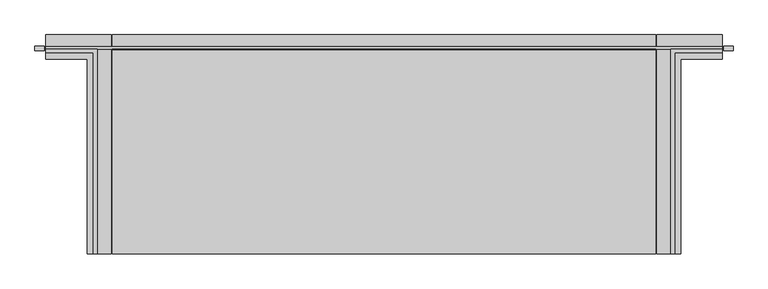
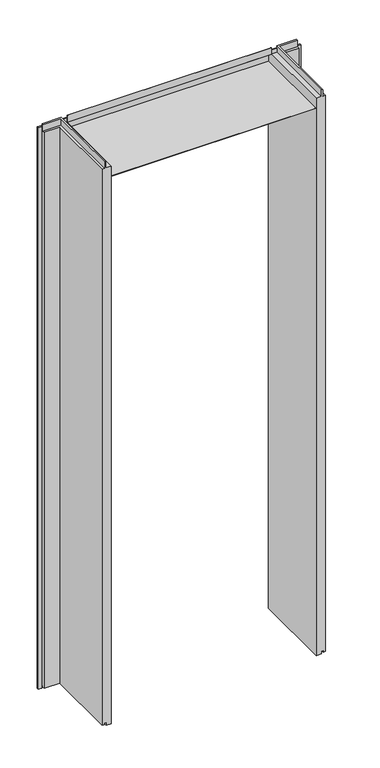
"""IFC4 building model written with IfcOpenShell, lengths in millimetres: plate geometry, Trimo_Qbiss Screen_Wall Opening Trims-HORIZONTAL : HR - B."""

import ifcopenshell
import ifcopenshell.guid

model = None  # the IFC model being written
_history = None  # IfcOwnerHistory: only IFC2X3 demands one
_inside = {}  # id of a spatial element -> (the spatial element, [elements in it])
_under = {}  # id of a project, library or spatial element -> (it, [spatial elements below it])
_declared = {}  # id of a project -> (the project, [libraries it declares])
_typed = {}  # id of a type object -> (the type object, [elements of that type])
_made_of = {}  # id of a material, layer set ... -> (it, [elements and type objects made of it])


def new_model(schema):
    """Start an empty IFC model of exactly this schema.

    Asked for "IFC4X3", IfcOpenShell would pick the latest addendum, in which some entities
    have other attributes; the version numbers below select the first issue.
    IFC2X3 requires an IfcOwnerHistory on every rooted entity: one is made here for all.
    """
    global model, _history
    if schema == "IFC4X3":
        model = ifcopenshell.file(schema_version=(4, 3, 0, 0))
    else:
        model = ifcopenshell.file(schema=schema)
    _inside.clear()
    _under.clear()
    _declared.clear()
    _typed.clear()
    _made_of.clear()
    _history = None
    if model.schema == "IFC2X3":
        org = make("IfcOrganization", Name="unknown")
        user = make(
            "IfcPersonAndOrganization",
            ThePerson=make("IfcPerson", FamilyName="unknown"),
            TheOrganization=org,
        )
        app = make(
            "IfcApplication",
            ApplicationDeveloper=org,
            Version="unknown",
            ApplicationFullName="unknown",
            ApplicationIdentifier="unknown",
        )
        _history = make(
            "IfcOwnerHistory",
            OwningUser=user,
            OwningApplication=app,
            ChangeAction="ADDED",
            CreationDate=0,
        )
    return model


def make(cls, **values):
    """One entity of the class cls with the attributes given. An attribute that is None is left unset."""
    return model.create_entity(
        cls, **{name: value for name, value in values.items() if value is not None}
    )


def rooted(cls, **values):
    """An entity with a GlobalId (a new one), such as an element, a storey or a relation."""
    return make(cls, GlobalId=ifcopenshell.guid.new(), OwnerHistory=_history, **values)


def si_unit(unit_type, name, prefix=None):
    """IfcSIUnit, for example si_unit("LENGTHUNIT", "METRE", prefix="MILLI")."""
    return make("IfcSIUnit", UnitType=unit_type, Prefix=prefix, Name=name)


def assignment(units):
    """IfcUnitAssignment: the units of a project."""
    return None if units is None else make("IfcUnitAssignment", Units=units)


def point(xyz):
    """IfcCartesianPoint."""
    return None if xyz is None else make("IfcCartesianPoint", Coordinates=xyz)


def direction(xyz):
    """IfcDirection."""
    return None if xyz is None else make("IfcDirection", DirectionRatios=xyz)


def frame(location, z_axis=None, x_axis=None):
    """IfcAxis2Placement3D, a coordinate frame: its origin and axes. An axis left out is left unset."""
    return make(
        "IfcAxis2Placement3D",
        Location=point(location),
        Axis=direction(z_axis),
        RefDirection=direction(x_axis),
    )


def origin():
    """The frame at (0, 0, 0) with its axes left unset."""
    return frame((0.0, 0.0, 0.0))


def origin_with_axes():
    """The frame at (0, 0, 0) with the z axis (0, 0, 1) and the x axis (1, 0, 0) written out."""
    return frame((0.0, 0.0, 0.0), z_axis=(0.0, 0.0, 1.0), x_axis=(1.0, 0.0, 0.0))


def place(relative_to, where):
    """IfcLocalPlacement: puts the frame where relative to a parent placement (None: the world)."""
    return make(
        "IfcLocalPlacement", PlacementRelTo=relative_to, RelativePlacement=where
    )


def context(
    kind, dimensions, precision=None, world=None, true_north=None, identifier=None
):
    """IfcGeometricRepresentationContext, for example the 3D "Model" context."""
    return make(
        "IfcGeometricRepresentationContext",
        ContextIdentifier=identifier,
        ContextType=kind,
        CoordinateSpaceDimension=dimensions,
        Precision=precision,
        WorldCoordinateSystem=world,
        TrueNorth=true_north,
    )


def project(units=None, contexts=None):
    """IfcProject with its units and contexts."""
    return rooted(
        "IfcProject",
        Name="project",
        RepresentationContexts=contexts,
        UnitsInContext=assignment(units),
    )


def spatial(cls, under=None, at=None, **own):
    """A site, building, storey or space (cls), placed at a placement, below another one or the project."""
    s = rooted(cls, ObjectPlacement=at, **own)
    if under is not None:
        _under.setdefault(under.id(), (under, []))[1].append(s)
    return s


def polyline(points):
    """IfcPolyline through the points."""
    return make("IfcPolyline", Points=[point(p) for p in points])


def outline(outer, holes=None, kind="AREA"):
    """IfcArbitraryClosedProfileDef: a profile drawn as a closed curve; with holes, ...WithVoids."""
    if holes is None:
        return make("IfcArbitraryClosedProfileDef", ProfileType=kind, OuterCurve=outer)
    return make(
        "IfcArbitraryProfileDefWithVoids",
        ProfileType=kind,
        OuterCurve=outer,
        InnerCurves=holes,
    )


def extrude(swept, where, along, depth):
    """IfcExtrudedAreaSolid: the profile swept, set in the frame where, extruded along a direction by depth."""
    return make(
        "IfcExtrudedAreaSolid",
        SweptArea=swept,
        Position=where,
        ExtrudedDirection=direction(along),
        Depth=depth,
    )


def faces_of(points, faces, orient=None, outer=None):
    """IfcFace entities. A face is a list of loops; a loop is a list of indices into points, from 0.

    orient and outer hold one flag for each loop. By default every Orientation is true, the
    first loop of a face is its IfcFaceOuterBound and the others are IfcFaceBound.
    """
    made = []
    for i, loops in enumerate(faces):
        bounds = []
        for j, loop in enumerate(loops):
            is_outer = j == 0 if outer is None else outer[i][j]
            bounds.append(
                make(
                    "IfcFaceOuterBound" if is_outer else "IfcFaceBound",
                    Bound=make("IfcPolyLoop", Polygon=[points[k] for k in loop]),
                    Orientation=True if orient is None else orient[i][j],
                )
            )
        made.append(make("IfcFace", Bounds=bounds))
    return made


def faceted_brep(points, faces, orient=None, outer=None, voids=None):
    """IfcFacetedBrep: a solid bounded by flat faces; with voids (closed shells), ...WithVoids."""
    shared = [point(p) for p in points]
    hull = make("IfcClosedShell", CfsFaces=faces_of(shared, faces, orient, outer))
    if voids is None:
        return make("IfcFacetedBrep", Outer=hull)
    return make(
        "IfcFacetedBrepWithVoids",
        Outer=hull,
        Voids=[
            make(cls, CfsFaces=faces_of(shared, fs, o, b)) for cls, fs, o, b in voids
        ],
    )


def shape(context_of_items, identifier, shape_type, items):
    """IfcShapeRepresentation: the items that make up one representation, for example the "Body"."""
    return make(
        "IfcShapeRepresentation",
        ContextOfItems=context_of_items,
        RepresentationIdentifier=identifier,
        RepresentationType=shape_type,
        Items=items,
    )


def source(mapping_origin, context_of_items, identifier, shape_type, items):
    """IfcRepresentationMap: a shape defined once, which mapped items show again and again."""
    return make(
        "IfcRepresentationMap",
        MappingOrigin=mapping_origin,
        MappedRepresentation=shape(context_of_items, identifier, shape_type, items),
    )


def transform(
    local_origin,
    x_axis=None,
    y_axis=None,
    z_axis=None,
    scale=None,
    scale2=None,
    scale3=None,
    uniform=True,
):
    """IfcCartesianTransformationOperator3D, or its non-uniform kind. x_axis, y_axis, z_axis: its Axis1, 2, 3."""
    if uniform:
        return make(
            "IfcCartesianTransformationOperator3D",
            Axis1=direction(x_axis),
            Axis2=direction(y_axis),
            LocalOrigin=point(local_origin),
            Scale=scale,
            Axis3=direction(z_axis),
        )
    return make(
        "IfcCartesianTransformationOperator3DnonUniform",
        Axis1=direction(x_axis),
        Axis2=direction(y_axis),
        LocalOrigin=point(local_origin),
        Scale=scale,
        Axis3=direction(z_axis),
        Scale2=scale2,
        Scale3=scale3,
    )


def mapped(mapping_source, mapping_target):
    """IfcMappedItem: shows the shape of a source again, moved by a transform."""
    return make(
        "IfcMappedItem", MappingSource=mapping_source, MappingTarget=mapping_target
    )


def made_of(thing, what):
    """Note that an element or type object is made of a material, layer set ...; save() writes the relation."""
    if what is not None:
        _made_of.setdefault(what.id(), (what, []))[1].append(thing)
    return thing


def element(
    cls,
    number,
    at=None,
    inside=None,
    cuts=None,
    type_object=None,
    material=None,
    context=None,
    identifier="Body",
    shape_type=None,
    held_by="IfcProductDefinitionShape",
    body=None,
    shapes=None,
    **own,
):
    """One element of the class cls, such as IfcWall. Its Tag is "e" and its number.

    at: its placement. inside: the storey or other place that contains it. cuts: it is an
    opening in that element (IfcRelVoidsElement). A single representation is given by context,
    identifier, shape_type and body (its items); several are given by shapes. held_by: the class
    of the entity that holds the representations. save() writes the other relations.
    """
    e = rooted(cls, Tag="e%d" % number, ObjectPlacement=at, **own)
    if body is not None:
        shapes = [shape(context, identifier, shape_type, body)]
    if shapes is not None:
        e.Representation = make(held_by, Representations=shapes)
    if inside is not None:
        _inside.setdefault(inside.id(), (inside, []))[1].append(e)
    if cuts is not None:
        rooted(
            "IfcRelVoidsElement", RelatingBuildingElement=cuts, RelatedOpeningElement=e
        )
    if type_object is not None:
        _typed.setdefault(type_object.id(), (type_object, []))[1].append(e)
    return made_of(e, material)


def aggregate(whole, parts):
    """IfcRelAggregates: a whole, such as a stair, and the parts it consists of."""
    return rooted("IfcRelAggregates", RelatingObject=whole, RelatedObjects=parts)


def save(model, path):
    """Write the relations noted so far, then the file.

    IfcRelAggregates (storeys below a building ...), IfcRelContainedInSpatialStructure (elements
    in a storey), IfcRelDefinesByType, IfcRelAssociatesMaterial and IfcRelDeclares: one each for
    every whole, place, type object, material and project.
    """
    for whole, parts in _under.values():
        aggregate(whole, parts)
    for where, things in _inside.values():
        rooted(
            "IfcRelContainedInSpatialStructure",
            RelatedElements=things,
            RelatingStructure=where,
        )
    for kind, things in _typed.values():
        rooted("IfcRelDefinesByType", RelatedObjects=things, RelatingType=kind)
    for what, things in _made_of.values():
        rooted("IfcRelAssociatesMaterial", RelatedObjects=things, RelatingMaterial=what)
    for by, libraries in _declared.values():
        rooted("IfcRelDeclares", RelatingContext=by, RelatedDefinitions=libraries)
    model.write(path)


def plate_d93fc1ee(model_context):
    return source(origin(), model_context, "Body", "SolidModel", [
        faceted_brep([(-695.0, 71.0, 3214.5), (-695.0, 100.0, 3214.5), (-695.0, 100.0, 0.0), (-695.0, 72.0, 0.0), (-695.0, 72.0, 15.5), (-695.0, 62.0, 15.5), (-695.0, 62.0, 7.0), (-695.0, 50.0, 7.0), (-695.0, 50.0, 3214.5), (-695.0, 63.0, 3214.5), (-695.0, 63.0, 3252.0), (-695.0, 71.0, 3252.0), (-589.0, 71.0, 3214.5), (-589.0, -350.0, 3214.5), (-560.0, -350.0, 3214.5), (-560.0, 100.0, 3214.5), (-560.0, 100.0, 0.0), (-560.0, -350.0, 0.0), (-588.0, -350.0, 0.0), (-588.0, 72.0, 0.0), (-588.0, 72.0, 15.5), (-588.0, -350.0, 15.5), (-598.0, -350.0, 15.5), (-598.0, 62.0, 15.5), (-598.0, 62.0, 7.0), (-598.0, -350.0, 7.0), (-610.0, -350.0, 7.0), (-610.0, 50.0, 7.0), (-610.0, 50.0, 3214.5), (-610.0, -350.0, 3214.5), (-597.0, -350.0, 3214.5), (-597.0, 63.0, 3214.5), (-597.0, 63.0, 3252.0), (-597.0, -350.0, 3252.0), (-589.0, -350.0, 3252.0), (-589.0, 71.0, 3252.0)], [[[0, 1, 2, 3, 4, 5, 6, 7, 8, 9, 10, 11]], [[1, 0, 12, 13, 14, 15]], [[2, 1, 15, 16]], [[3, 2, 16, 17, 18, 19]], [[4, 3, 19, 20]], [[5, 4, 20, 21, 22, 23]], [[6, 5, 23, 24]], [[7, 6, 24, 25, 26, 27]], [[8, 7, 27, 28]], [[9, 8, 28, 29, 30, 31]], [[10, 9, 31, 32]], [[11, 10, 32, 33, 34, 35]], [[0, 11, 35, 12]], [[13, 34, 33, 30, 29, 26, 25, 22, 21, 18, 17, 14]], [[16, 15, 14, 17]], [[20, 19, 18, 21]], [[24, 23, 22, 25]], [[28, 27, 26, 29]], [[32, 31, 30, 33]], [[12, 35, 34, 13]]]),
        faceted_brep([(589.0, -350.0, 3214.5), (560.0, -350.0, 3214.5), (560.0, -350.0, 0.0), (588.0, -350.0, 0.0), (588.0, -350.0, 15.5), (598.0, -350.0, 15.5), (598.0, -350.0, 7.0), (610.0, -350.0, 7.0), (610.0, -350.0, 3214.5), (597.0, -350.0, 3214.5), (597.0, -350.0, 3252.0), (589.0, -350.0, 3252.0), (560.0, 100.0, 0.0), (560.0, 100.0, 3214.5), (695.0, 100.0, 3214.5), (695.0, 100.0, 0.0), (588.0, 72.0, 15.5), (588.0, 72.0, 0.0), (695.0, 72.0, 0.0), (695.0, 72.0, 15.5), (598.0, 62.0, 7.0), (598.0, 62.0, 15.5), (695.0, 62.0, 15.5), (695.0, 62.0, 7.0), (610.0, 50.0, 3214.5), (610.0, 50.0, 7.0), (695.0, 50.0, 7.0), (695.0, 50.0, 3214.5), (597.0, 63.0, 3252.0), (597.0, 63.0, 3214.5), (695.0, 63.0, 3214.5), (695.0, 63.0, 3252.0), (589.0, 71.0, 3214.5), (589.0, 71.0, 3252.0), (695.0, 71.0, 3252.0), (695.0, 71.0, 3214.5)], [[[0, 1, 2, 3, 4, 5, 6, 7, 8, 9, 10, 11]], [[12, 13, 14, 15]], [[16, 17, 18, 19]], [[20, 21, 22, 23]], [[24, 25, 26, 27]], [[28, 29, 30, 31]], [[32, 33, 34, 35]], [[35, 34, 31, 30, 27, 26, 23, 22, 19, 18, 15, 14]], [[1, 0, 32, 35, 14, 13]], [[2, 1, 13, 12]], [[3, 2, 12, 15, 18, 17]], [[4, 3, 17, 16]], [[5, 4, 16, 19, 22, 21]], [[6, 5, 21, 20]], [[7, 6, 20, 23, 26, 25]], [[8, 7, 25, 24]], [[9, 8, 24, 27, 30, 29]], [[10, 9, 29, 28]], [[11, 10, 28, 31, 34, 33]], [[0, 11, 33, 32]]]),
        extrude(outline(polyline([(698.0, 76.5978162), (717.0, 76.5978162), (717.0, 67.8978162), (698.0, 67.8978162), (698.0, 76.5978162)])), origin_with_axes(), (0.0, 0.0, 1.0), 3214.5),
        extrude(outline(polyline([(-698.0, 76.5978162), (-698.0, 67.8978162), (-717.0, 67.8978162), (-717.0, 76.5978162), (-698.0, 76.5978162)])), origin_with_axes(), (0.0, 0.0, 1.0), 3237.5),
        extrude(outline(polyline([(71.0, 3214.5), (100.0, 3214.5), (100.0, 3156.5), (-350.0, 3156.5), (-350.0, 3157.5), (99.0, 3157.5), (99.0, 3213.5), (70.0, 3213.5), (70.0, 3252.0), (71.0, 3252.0), (71.0, 3214.5)])), frame((-558.0, 0.0, 0.0), z_axis=(1.0, 0.0, 0.0), x_axis=(0.0, 1.0, 0.0)), (0.0, 0.0, 1.0), 1116.0),
        extrude(outline(polyline([(695.0, 76.0), (695.0, 71.0), (-695.0, 71.0), (-695.0, 76.0), (695.0, 76.0)])), frame((0.0, 0.0, 3215.5), z_axis=(0.0, 0.0, 1.0), x_axis=(1.0, 0.0, 0.0)), (0.0, 0.0, 1.0), 21.0),
    ])


if __name__ == "__main__":
    model = new_model("IFC4")
    model_context = context("Model", 3, world=origin())
    ifc_project = project(units=[si_unit("LENGTHUNIT", "METRE", prefix="MILLI")], contexts=[model_context])
    site = spatial("IfcSite", under=ifc_project)
    building = spatial("IfcBuilding", under=site)
    placement = place(None, origin())
    plate_shape = plate_d93fc1ee(model_context)
    element("IfcPlate", 1, ObjectType="Trimo_Qbiss Screen_Wall Opening Trims-HORIZONTAL : HR - B", at=placement, inside=building, context=model_context, shape_type="MappedRepresentation", body=[
        mapped(plate_shape, transform((0.0, 0.0, 0.0), x_axis=(1.0, 0.0, 0.0), y_axis=(0.0, 1.0, 0.0), z_axis=(0.0, 0.0, 1.0))),
    ])
    save(model, "model.ifc")
